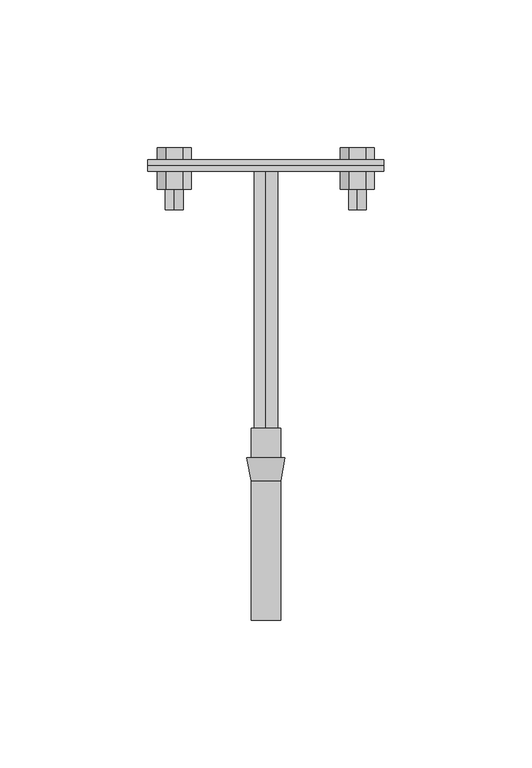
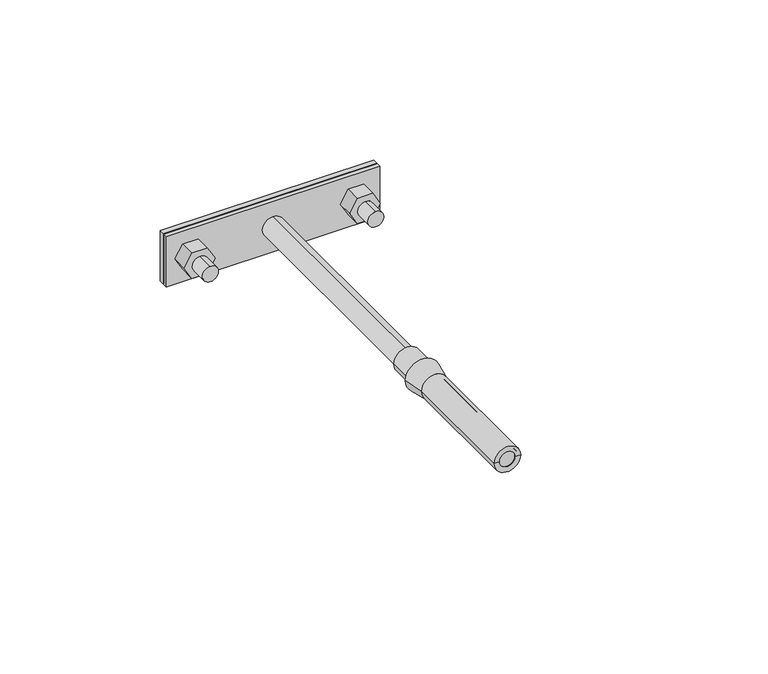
"""IFC4 building model written with IfcOpenShell, lengths in millimetres: proxy geometry, КНС_ДержательФасадный_DKC : ND2301_Горячеоцинкованная сталь_160 мм."""

from ifc_helpers import new_model, si_unit, point, frame, frame_2d, origin, origin_2d, place, context, project, spatial, polyline, circle_curve, trimmed, segment, composite_curve, outline, extrude, source, transform, mapped, element, save
from ifc_brep_helpers import plane_surface, cylinder_surface, revolved_surface, advanced_brep


def security_devices_cb26ebee(model_context):
    return source(origin(), model_context, "Body", "SolidModel", [
        extrude(outline(polyline([(40.0, 91.0), (40.0, 89.0), (-40.0, 89.0), (-40.0, 91.0), (40.0, 91.0)])), frame((0.0, 0.0, -10.0), z_axis=(0.0, 0.0, 1.0), x_axis=(1.0, 0.0, 0.0)), (0.0, 0.0, 1.0), 20.0),
        advanced_brep(
        [(6.3810583, -10.0, 0.0), (-6.3810583, -10.0, 0.0), (-5.0, -10.0, 0.0), (5.0, -10.0, 0.0), (5.0, -17.8323707, 0.0), (-5.0, -17.8323707, 0.0), (5.0, -65.0, 0.0), (-5.0, -65.0, 0.0), (3.0, -65.0, 0.0), (-3.0, -65.0, 0.0), (3.0, 0.0, 0.0), (-3.0, 0.0, 0.0), (5.0, 0.0, 0.0), (-5.0, 0.0, 0.0)],
        [
            (0, 1, circle_curve(frame((0.0, -10.0, 0.0), z_axis=(0.0, 1.0, 0.0), x_axis=(-1.0, 0.0, 0.0)), 6.3810583)),
            (1, 2),
            (2, 3, circle_curve(frame((0.0, -10.0, 0.0), z_axis=(0.0, -1.0, 0.0), x_axis=(-1.0, 0.0, 0.0)), 5.0)),
            (3, 0),
            (1, 0, circle_curve(frame((0.0, -10.0, 0.0), z_axis=(0.0, 1.0, 0.0), x_axis=(-1.0, 0.0, 0.0)), 6.3810583)),
            (3, 2, circle_curve(frame((0.0, -10.0, 0.0), z_axis=(0.0, -1.0, 0.0), x_axis=(-1.0, 0.0, 0.0)), 5.0)),
            (4, 5, circle_curve(frame((0.0, -17.8323707, 0.0), z_axis=(0.0, 1.0, 0.0), x_axis=(-1.0, 0.0, 0.0)), 5.0)),
            (5, 1),
            (0, 4),
            (5, 4, circle_curve(frame((0.0, -17.8323707, 0.0), z_axis=(0.0, 1.0, 0.0), x_axis=(-1.0, 0.0, 0.0)), 5.0)),
            (6, 7, circle_curve(frame((0.0, -65.0, 0.0), z_axis=(0.0, 1.0, 0.0), x_axis=(-1.0, 0.0, 0.0)), 5.0)),
            (7, 5),
            (4, 6),
            (7, 6, circle_curve(frame((0.0, -65.0, 0.0), z_axis=(0.0, 1.0, 0.0), x_axis=(-1.0, 0.0, 0.0)), 5.0)),
            (8, 9, circle_curve(frame((0.0, -65.0, 0.0), z_axis=(0.0, 1.0, 0.0), x_axis=(-1.0, 0.0, 0.0)), 3.0)),
            (9, 7),
            (6, 8),
            (9, 8, circle_curve(frame((0.0, -65.0, 0.0), z_axis=(0.0, 1.0, 0.0), x_axis=(-1.0, 0.0, 0.0)), 3.0)),
            (10, 11, circle_curve(frame((0.0, 0.0, 0.0), z_axis=(0.0, 1.0, 0.0), x_axis=(-1.0, 0.0, 0.0)), 3.0)),
            (11, 9),
            (8, 10),
            (11, 10, circle_curve(frame((0.0, 0.0, 0.0), z_axis=(0.0, 1.0, 0.0), x_axis=(-1.0, 0.0, 0.0)), 3.0)),
            (12, 13, circle_curve(frame((0.0, 0.0, 0.0), z_axis=(0.0, 1.0, 0.0), x_axis=(-1.0, 0.0, 0.0)), 5.0)),
            (13, 11),
            (10, 12),
            (13, 12, circle_curve(frame((0.0, 0.0, 0.0), z_axis=(0.0, 1.0, 0.0), x_axis=(-1.0, 0.0, 0.0)), 5.0)),
            (2, 13),
            (12, 3),
        ],
        [
            plane_surface(frame((0.0, -10.0, 0.0), z_axis=(0.0, 1.0, 0.0), x_axis=(-1.0, 0.0, 0.0))),
            revolved_surface(polyline([(-6.3810583, -10.0, 0.0), (-5.0, -17.8323707, 0.0)]), (0.0, 2000.0, 0.0), (0.0, -1.0, 0.0)),
            cylinder_surface(frame((0.0, 2000.0, 0.0), z_axis=(0.0, -1.0, 0.0), x_axis=(-1.0, 0.0, 0.0)), 5.0),
            plane_surface(frame((0.0, -65.0, 0.0), z_axis=(0.0, -1.0, 0.0), x_axis=(-1.0, 0.0, 0.0))),
            revolved_surface(polyline([(-3.0, -65.0, 0.0), (-3.0, 0.0, 0.0)]), (0.0, 2000.0, 0.0), (0.0, -1.0, 0.0)),
            plane_surface(frame((0.0, 0.0, 0.0), z_axis=(0.0, 1.0, 0.0), x_axis=(-1.0, 0.0, 0.0))),
        ],
        [
            (0, [[1, 2, 3, 4]]),
            (0, [[5, -4, 6, -2]]),
            (1, [[7, 8, -1, 9]]),
            (1, [[10, -9, -5, -8]]),
            (2, [[11, 12, -7, 13]]),
            (2, [[14, -13, -10, -12]]),
            (3, [[15, 16, -11, 17]]),
            (3, [[18, -17, -14, -16]]),
            (4, [[19, 20, -15, 21]]),
            (4, [[22, -21, -18, -20]]),
            (5, [[23, 24, -19, 25]]),
            (5, [[26, -25, -22, -24]]),
            (2, [[-3, 27, -23, 28]]),
            (2, [[-6, -28, -26, -27]]),
        ],
    ),
        extrude(outline(polyline([(0.0, 36.7735027), (5.0, 33.8867513), (5.0, 28.1132487), (0.0, 25.2264973), (-5.0, 28.1132487), (-5.0, 33.8867513), (0.0, 36.7735027)])), frame((0.0, 81.0, 0.0), z_axis=(0.0, 1.0, 0.0), x_axis=(0.0, 0.0, 1.0)), (0.0, 0.0, 1.0), 6.0),
        extrude(outline(polyline([(0.0, -25.2264973), (5.0, -28.1132487), (5.0, -33.8867513), (0.0, -36.7735027), (-5.0, -33.8867513), (-5.0, -28.1132487), (0.0, -25.2264973)])), frame((0.0, 81.0, 0.0), z_axis=(0.0, 1.0, 0.0), x_axis=(0.0, 0.0, 1.0)), (0.0, 0.0, 1.0), 6.0),
        extrude(outline(composite_curve([segment(trimmed(circle_curve(frame_2d((0.0, 31.0)), 3.0), [point((-3.0, 31.0))], [point((3.0, 31.0))], False, "CARTESIAN"), True, "CONTINUOUS"), segment(trimmed(circle_curve(frame_2d((0.0, 31.0)), 3.0), [point((3.0, 31.0))], [point((-3.0, 31.0))], False, "CARTESIAN"), True, "CONTINUOUS")], self_intersect=False)), frame((0.0, 74.0, 0.0), z_axis=(0.0, 1.0, 0.0), x_axis=(0.0, 0.0, 1.0)), (0.0, 0.0, 1.0), 13.0),
        extrude(outline(polyline([(0.0, 36.7735027), (5.0, 33.8867513), (5.0, 28.1132487), (0.0, 25.2264973), (-5.0, 28.1132487), (-5.0, 33.8867513), (0.0, 36.7735027)])), frame((0.0, 91.0, 0.0), z_axis=(0.0, 1.0, 0.0), x_axis=(0.0, 0.0, 1.0)), (0.0, 0.0, 1.0), 4.0),
        extrude(outline(polyline([(0.0, -25.2264973), (5.0, -28.1132487), (5.0, -33.8867513), (0.0, -36.7735027), (-5.0, -33.8867513), (-5.0, -28.1132487), (0.0, -25.2264973)])), frame((0.0, 91.0, 0.0), z_axis=(0.0, 1.0, 0.0), x_axis=(0.0, 0.0, 1.0)), (0.0, 0.0, 1.0), 4.0),
        extrude(outline(composite_curve([segment(trimmed(circle_curve(frame_2d((0.0, -31.0)), 3.0), [point((-3.0, -31.0))], [point((3.0, -31.0))], False, "CARTESIAN"), True, "CONTINUOUS"), segment(trimmed(circle_curve(frame_2d((0.0, -31.0)), 3.0), [point((3.0, -31.0))], [point((-3.0, -31.0))], False, "CARTESIAN"), True, "CONTINUOUS")], self_intersect=False)), frame((0.0, 74.0, 0.0), z_axis=(0.0, 1.0, 0.0), x_axis=(0.0, 0.0, 1.0)), (0.0, 0.0, 1.0), 13.0),
        extrude(outline(composite_curve([segment(trimmed(circle_curve(origin_2d(), 4.0), [point((-4.0, 0.0))], [point((4.0, 0.0))], False, "CARTESIAN"), True, "CONTINUOUS"), segment(trimmed(circle_curve(origin_2d(), 4.0), [point((4.0, 0.0))], [point((-4.0, 0.0))], False, "CARTESIAN"), True, "CONTINUOUS")], self_intersect=False)), frame((0.0, -65.0, 0.0), z_axis=(0.0, 1.0, 0.0), x_axis=(0.0, 0.0, 1.0)), (0.0, 0.0, 1.0), 152.0),
        extrude(outline(polyline([(-40.0, 87.0), (-40.0, 89.0), (40.0, 89.0), (40.0, 87.0), (-40.0, 87.0)])), frame((0.0, 0.0, -10.0), z_axis=(0.0, 0.0, 1.0), x_axis=(1.0, 0.0, 0.0)), (0.0, 0.0, 1.0), 20.0),
    ])


if __name__ == "__main__":
    model = new_model("IFC4")
    model_context = context("Model", 3, world=origin())
    ifc_project = project(units=[si_unit("LENGTHUNIT", "METRE", prefix="MILLI")], contexts=[model_context])
    site = spatial("IfcSite", under=ifc_project)
    building = spatial("IfcBuilding", under=site)
    placement = place(None, origin())
    security_devices_shape = security_devices_cb26ebee(model_context)
    element("IfcBuildingElementProxy", 1, Name="КНС_ДержательФасадный_DKC : ND2301_Горячеоцинкованная сталь_160 мм", ObjectType="КНС_ДержательФасадный_DKC : ND2301_Горячеоцинкованная сталь_160 мм", at=placement, inside=building, context=model_context, shape_type="MappedRepresentation", body=[
        mapped(security_devices_shape, transform((0.0, 0.0, 0.0), x_axis=(1.0, 0.0, 0.0), y_axis=(0.0, 1.0, 0.0), z_axis=(0.0, 0.0, 1.0))),
    ])
    save(model, "model.ifc")
